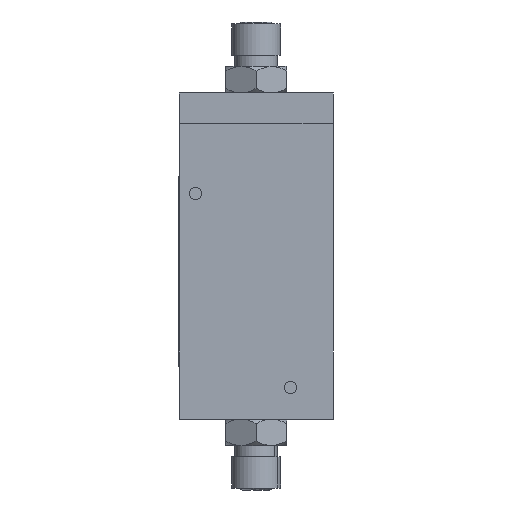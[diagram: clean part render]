
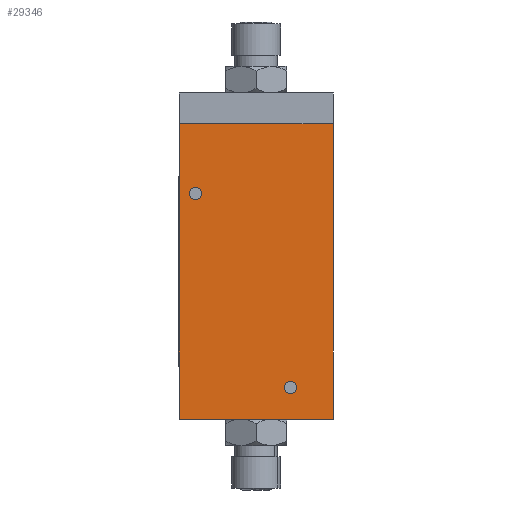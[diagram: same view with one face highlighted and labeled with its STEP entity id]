
A CAD part, front view. The second image highlights one B-rep face of the part: STEP entity #29346.
In plain terms, the highlighted planar face has unit normal (0, -1, 0).
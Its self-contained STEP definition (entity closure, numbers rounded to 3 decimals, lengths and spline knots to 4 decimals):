
#43 = AXIS2_PLACEMENT_3D ( 'NONE', #7927, #71057, #24752 ) ;
#245 = VERTEX_POINT ( 'NONE', #42828 ) ;
#587 = VERTEX_POINT ( 'NONE', #63787 ) ;
#1371 = DIRECTION ( 'NONE',  ( 1., 0., 0. ) ) ;
#2307 = ORIENTED_EDGE ( 'NONE', *, *, #42547, .T. ) ;
#3561 = ORIENTED_EDGE ( 'NONE', *, *, #62089, .T. ) ;
#5704 = EDGE_LOOP ( 'NONE', ( #3561, #2307 ) ) ;
#7927 = CARTESIAN_POINT ( 'NONE',  ( -0.6875, 0., 0.7045 ) ) ;
#9442 = LINE ( 'NONE', #31253, #24080 ) ;
#9970 = VECTOR ( 'NONE', #40272, 39.3701 ) ;
#10637 = VECTOR ( 'NONE', #65267, 39.3701 ) ;
#10655 = FACE_OUTER_BOUND ( 'NONE', #27170, .T. ) ;
#12032 = DIRECTION ( 'NONE',  ( 0., 0., 1. ) ) ;
#13649 = AXIS2_PLACEMENT_3D ( 'NONE', #22497, #45858, #62280 ) ;
#15485 = VERTEX_POINT ( 'NONE', #22865 ) ;
#16346 = AXIS2_PLACEMENT_3D ( 'NONE', #50561, #20352, #49423 ) ;
#17335 = LINE ( 'NONE', #51020, #9970 ) ;
#19610 = ORIENTED_EDGE ( 'NONE', *, *, #63496, .T. ) ;
#20352 = DIRECTION ( 'NONE',  ( 0., 1., 0. ) ) ;
#22497 = CARTESIAN_POINT ( 'NONE',  ( 0., 0., -0.175 ) ) ;
#22865 = CARTESIAN_POINT ( 'NONE',  ( -0.6875, 0., 0.7738 ) ) ;
#23429 = EDGE_CURVE ( 'NONE', #59998, #15485, #49325, .T. ) ;
#24080 = VECTOR ( 'NONE', #72197, 39.3701 ) ;
#24752 = DIRECTION ( 'NONE',  ( 0., 0., 1. ) ) ;
#27170 = EDGE_LOOP ( 'NONE', ( #71075, #46842, #69879, #41467 ) ) ;
#27683 = CARTESIAN_POINT ( 'NONE',  ( -0.8695, 0., 1.4915 ) ) ;
#28242 = CARTESIAN_POINT ( 'NONE',  ( 0.8695, 0., -1.8415 ) ) ;
#29346 = ADVANCED_FACE ( 'NONE', ( #10655, #74907, #50843 ), #45472, .T. ) ;
#31253 = CARTESIAN_POINT ( 'NONE',  ( 0.8695, 0., -0.175 ) ) ;
#39586 = CARTESIAN_POINT ( 'NONE',  ( 0.3875, 0., -1.4875 ) ) ;
#40272 = DIRECTION ( 'NONE',  ( 0., 0., 1. ) ) ;
#40325 = CIRCLE ( 'NONE', #43, 0.0693 ) ;
#41080 = CIRCLE ( 'NONE', #42349, 0.0693 ) ;
#41467 = ORIENTED_EDGE ( 'NONE', *, *, #51863, .F. ) ;
#42349 = AXIS2_PLACEMENT_3D ( 'NONE', #59825, #52968, #12032 ) ;
#42547 = EDGE_CURVE ( 'NONE', #46041, #587, #41080, .T. ) ;
#42828 = CARTESIAN_POINT ( 'NONE',  ( -0.8695, 0., -1.8415 ) ) ;
#43834 = CIRCLE ( 'NONE', #59883, 0.0693 ) ;
#44381 = CARTESIAN_POINT ( 'NONE',  ( -0.6875, 0., 0.6352 ) ) ;
#44435 = CARTESIAN_POINT ( 'NONE',  ( 0.8695, 0., 1.4915 ) ) ;
#45472 = PLANE ( 'NONE',  #13649 ) ;
#45747 = EDGE_CURVE ( 'NONE', #72898, #72451, #9442, .T. ) ;
#45858 = DIRECTION ( 'NONE',  ( 0., -1., 0. ) ) ;
#46041 = VERTEX_POINT ( 'NONE', #60251 ) ;
#46842 = ORIENTED_EDGE ( 'NONE', *, *, #45747, .F. ) ;
#47124 = EDGE_CURVE ( 'NONE', #245, #72451, #65646, .T. ) ;
#47882 = ORIENTED_EDGE ( 'NONE', *, *, #23429, .T. ) ;
#48066 = CARTESIAN_POINT ( 'NONE',  ( 0., 0., -1.8415 ) ) ;
#49325 = CIRCLE ( 'NONE', #16346, 0.0693 ) ;
#49423 = DIRECTION ( 'NONE',  ( 0., 0., 1. ) ) ;
#49608 = VECTOR ( 'NONE', #1371, 39.3701 ) ;
#50196 = VERTEX_POINT ( 'NONE', #27683 ) ;
#50561 = CARTESIAN_POINT ( 'NONE',  ( -0.6875, 0., 0.7045 ) ) ;
#50843 = FACE_BOUND ( 'NONE', #5704, .T. ) ;
#51020 = CARTESIAN_POINT ( 'NONE',  ( -0.8695, 0., -0.175 ) ) ;
#51863 = EDGE_CURVE ( 'NONE', #245, #50196, #17335, .T. ) ;
#52968 = DIRECTION ( 'NONE',  ( 0., 1., 0. ) ) ;
#55551 = DIRECTION ( 'NONE',  ( 0., 1., 0. ) ) ;
#58586 = EDGE_CURVE ( 'NONE', #50196, #72898, #59501, .T. ) ;
#58959 = EDGE_LOOP ( 'NONE', ( #19610, #47882 ) ) ;
#59501 = LINE ( 'NONE', #70987, #49608 ) ;
#59825 = CARTESIAN_POINT ( 'NONE',  ( 0.3875, 0., -1.4875 ) ) ;
#59883 = AXIS2_PLACEMENT_3D ( 'NONE', #39586, #55551, #73527 ) ;
#59998 = VERTEX_POINT ( 'NONE', #44381 ) ;
#60251 = CARTESIAN_POINT ( 'NONE',  ( 0.3875, 0., -1.5568 ) ) ;
#62089 = EDGE_CURVE ( 'NONE', #587, #46041, #43834, .T. ) ;
#62280 = DIRECTION ( 'NONE',  ( 0., 0., -1. ) ) ;
#63496 = EDGE_CURVE ( 'NONE', #15485, #59998, #40325, .T. ) ;
#63787 = CARTESIAN_POINT ( 'NONE',  ( 0.3875, 0., -1.4182 ) ) ;
#65267 = DIRECTION ( 'NONE',  ( 1., 0., 0. ) ) ;
#65646 = LINE ( 'NONE', #48066, #10637 ) ;
#69879 = ORIENTED_EDGE ( 'NONE', *, *, #58586, .F. ) ;
#70987 = CARTESIAN_POINT ( 'NONE',  ( 0., 0., 1.4915 ) ) ;
#71057 = DIRECTION ( 'NONE',  ( 0., 1., 0. ) ) ;
#71075 = ORIENTED_EDGE ( 'NONE', *, *, #47124, .T. ) ;
#72197 = DIRECTION ( 'NONE',  ( 0., 0., -1. ) ) ;
#72451 = VERTEX_POINT ( 'NONE', #28242 ) ;
#72898 = VERTEX_POINT ( 'NONE', #44435 ) ;
#73527 = DIRECTION ( 'NONE',  ( 0., 0., 1. ) ) ;
#74907 = FACE_BOUND ( 'NONE', #58959, .T. ) ;
